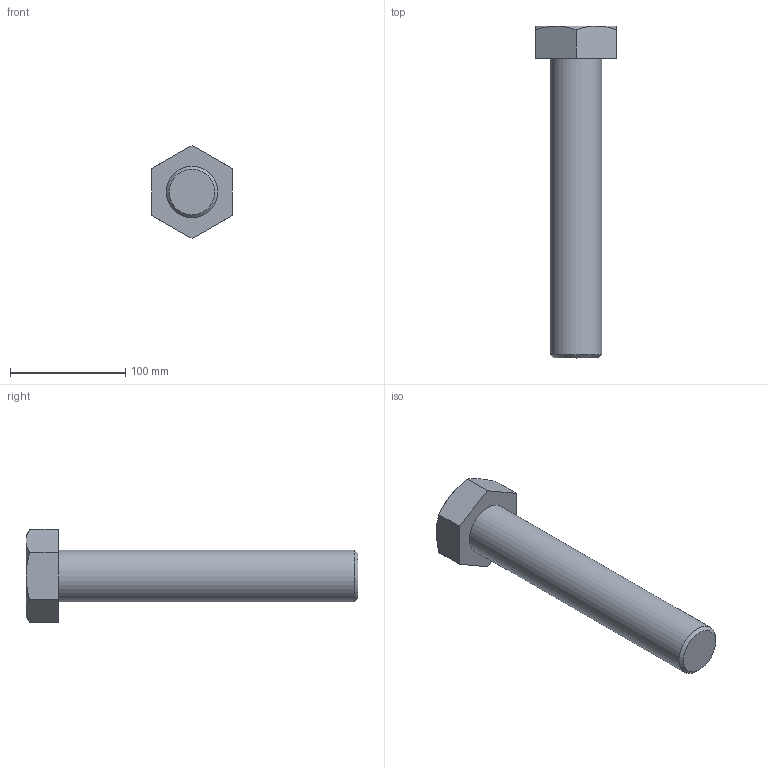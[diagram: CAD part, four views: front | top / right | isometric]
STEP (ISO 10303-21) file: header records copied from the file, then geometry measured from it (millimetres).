
FILE_DESCRIPTION(/* description */ (''),/* implementation_level */ '2;1');
FILE_NAME(/* name */ 'C:\Users\unitec\Documents\Inventor\各種小物\JIS\JIS B 1180 六角ボルト 等級C\hbc45\M45x260.stp',/* time_stamp */ '2015-02-13T14:58:27+09:00',/* author */ ('unitec'),/* organization */ (''),/* preprocessor_version */ 'ST-DEVELOPER v15.2',/* originating_system */ 'Autodesk Inventor 2014',/* authorisation */ '');
FILE_SCHEMA (('AUTOMOTIVE_DESIGN { 1 0 10303 214 3 1 1 }'));
Length unit declared in the file: millimetre
Products named in the file (1): M45x260
Bounding box: 70 x 288 x 80.83 mm (x, y, z)
Volume: 531442 mm3; surface area: 51596 mm2
Topology: 1 solids, 1 shells, 17 faces, 35 edges, 21 vertices
Faces by surface type: plane 9, cone 7, cylinder 1
Full cylindrical faces by diameter (mm): 45 x1
Entity records: 441 total; most frequent: CARTESIAN_POINT 96, ORIENTED_EDGE 66, DIRECTION 66, EDGE_CURVE 33, AXIS2_PLACEMENT_3D 27, VERTEX_POINT 21, EDGE_LOOP 20, ADVANCED_FACE 17
